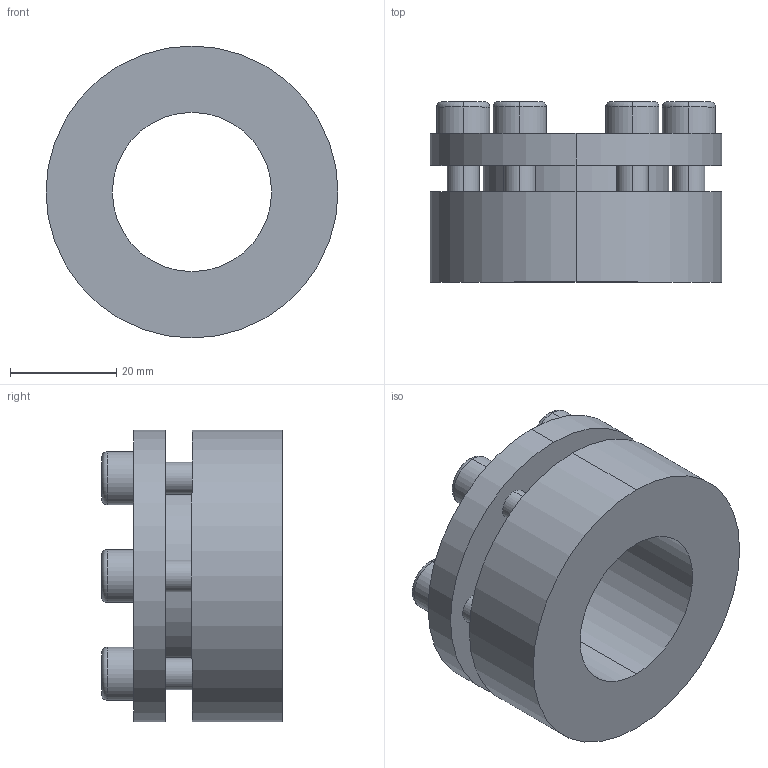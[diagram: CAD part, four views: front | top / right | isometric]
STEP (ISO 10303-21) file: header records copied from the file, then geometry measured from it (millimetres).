
FILE_DESCRIPTION (( 'STEP AP203' ), '1' );
FILE_NAME ('PL-H3 30-55.STEP', '2021-10-23T01:06:53', ( '' ), ( '' ), 'SwSTEP 2.0', 'SolidWorks 2018', '' );
FILE_SCHEMA (( 'CONFIG_CONTROL_DESIGN' ));
Length unit declared in the file: millimetre
Products named in the file (1): PL-H3 30-55
Bounding box: 55 x 34 x 55 mm (x, y, z)
Volume: 42909.9 mm3; surface area: 14913.6 mm2
Topology: 1 solids, 1 shells, 96 faces, 228 edges, 148 vertices
Faces by surface type: plane 52, cylinder 32, torus 12
Entity records: 2889 total; most frequent: DIRECTION 510, CARTESIAN_POINT 473, ORIENTED_EDGE 456, EDGE_CURVE 228, AXIS2_PLACEMENT_3D 185, VERTEX_POINT 148, LINE 140, VECTOR 140
